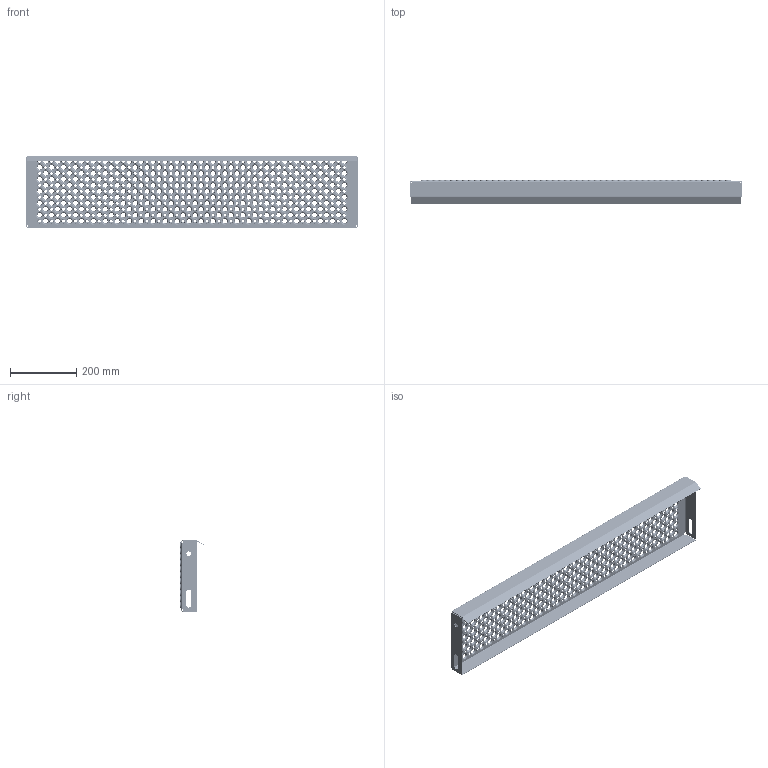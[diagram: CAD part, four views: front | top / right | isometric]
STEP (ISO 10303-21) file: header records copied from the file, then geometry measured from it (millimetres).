
FILE_DESCRIPTION (( 'STEP AP203' ), '1' );
FILE_NAME ('80242110G_Lejdertrin_215x1000x45_mm_.STEP', '2015-01-14T06:16:33', ( '' ), ( '' ), 'SwSTEP 2.0', 'SolidWorks 2013', '' );
FILE_SCHEMA (( 'CONFIG_CONTROL_DESIGN' ));
Length unit declared in the file: millimetre
Products named in the file (1): 80242110G_Lejdertrin_215x1000x45_mm_
Bounding box: 1000 x 71.67 x 215 mm (x, y, z)
Volume: 641353.2 mm3; surface area: 689206.2 mm2
Topology: 1 solids, 1 shells, 2936 faces, 8190 edges, 5256 vertices
Faces by surface type: cone 1716, torus 1144, cylinder 36, plane 32, bspline 8
Full cylindrical faces by diameter (mm): 14 x2
Entity records: 67865 total; most frequent: DIRECTION 12926, CARTESIAN_POINT 10589, ORIENTED_EDGE 7224, EDGE_LOOP 6950, AXIS2_PLACEMENT_3D 6417, FACE_OUTER_BOUND 4082, EDGE_CURVE 3612, VERTEX_POINT 3540
